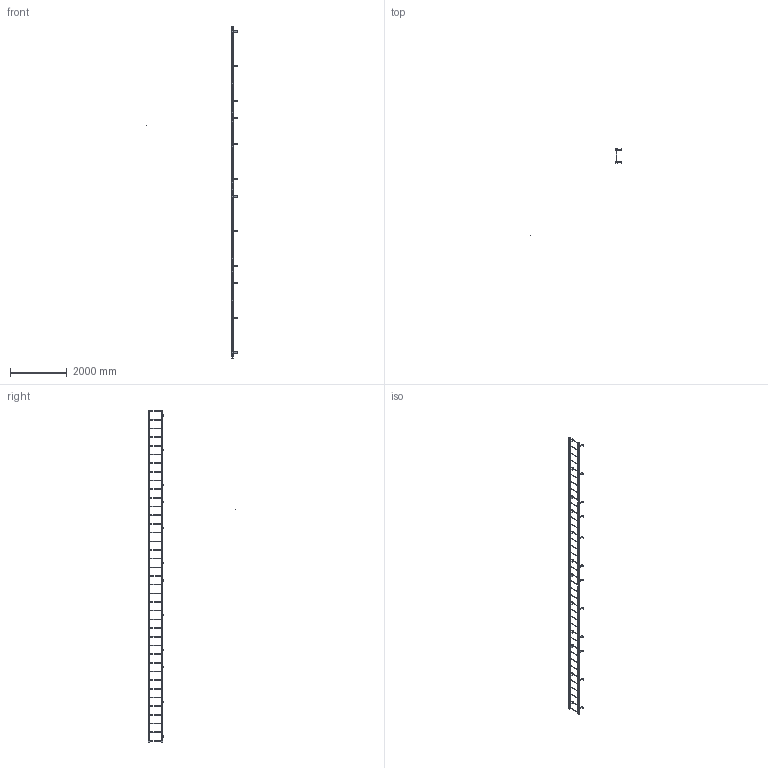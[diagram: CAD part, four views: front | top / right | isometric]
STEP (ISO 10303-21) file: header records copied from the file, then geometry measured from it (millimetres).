
FILE_DESCRIPTION(/* description */ (''),/* implementation_level */ '2;1');
FILE_NAME(/* name */ 'P:\MIKEL & KAREN\3570355 F39S SIMPLIFED PART .stp',/* time_stamp */ '2018-07-02T16:02:57-04:00',/* author */ ('stephanie'),/* organization */ (''),/* preprocessor_version */ 'ST-DEVELOPER v16.1',/* originating_system */ 'Autodesk Inventor 2016',/* authorisation */ '');
FILE_SCHEMA (('AUTOMOTIVE_DESIGN { 1 0 10303 214 3 1 1 }'));
Length unit declared in the file: centimetre
Products named in the file (1): 3570355 F39S SIMPLIFED PART 
Bounding box: 3197.42 x 3084.4 x 11658.6 mm (x, y, z)
Volume: 20635955.4 mm3; surface area: 6201904 mm2
Topology: 42 solids, 42 shells, 670 faces, 1818 edges, 1208 vertices
Faces by surface type: plane 402, cylinder 268
Full cylindrical faces by diameter (mm): 0.254 x1, 14.287 x30, 19.05 x39, 22.225 x78
Entity records: 20649 total; most frequent: DIRECTION 3488, CARTESIAN_POINT 3333, ORIENTED_EDGE 3124, EDGE_CURVE 1562, AXIS2_PLACEMENT_3D 1255, VERTEX_POINT 1100, EDGE_LOOP 1034, LINE 978
